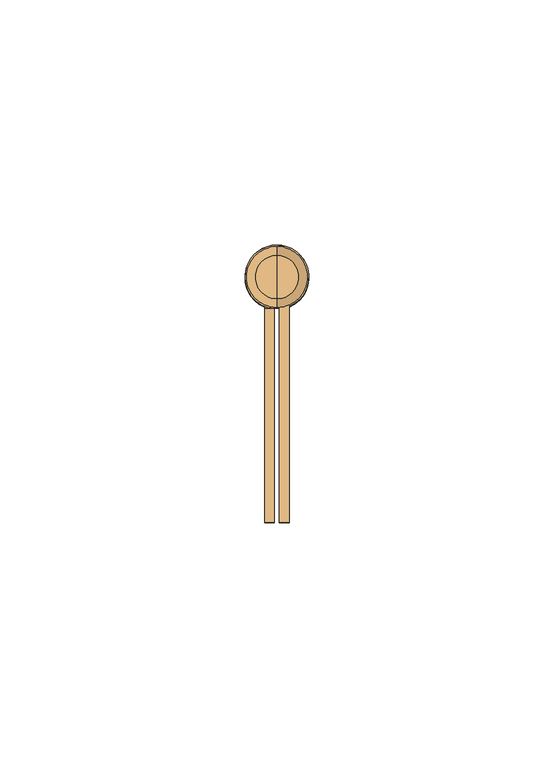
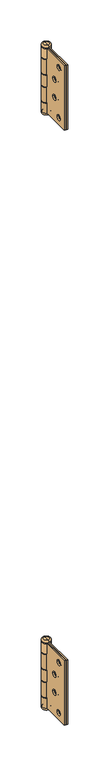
"""IFC4 building model written with IfcOpenShell, lengths in millimetres: door geometry, Puerta contraplacada Vaiven : Puerta contraplacada 0.85x2.10 m."""

from ifc_helpers import new_model, si_unit, point, frame, origin, place, context, project, spatial, polyline, circle_curve, ellipse_curve, trimmed, source, transform, mapped, element, save
from ifc_brep_helpers import plane_surface, cylinder_surface, revolved_surface, advanced_brep


def door_2d542328(model_context):
    return source(origin(), model_context, "Body", "AdvancedBrep", [
        advanced_brep(
        [(-389.0, 7.5, 2050.0), (-389.0, 7.5, 1950.0), (-389.0, 51.5, 1950.0), (-389.0, 51.5, 1965.5), (-389.0, 51.0, 1965.5), (-389.0, 51.0, 1991.0), (-389.0, 51.5, 1991.0), (-389.0, 51.5, 2009.0), (-389.0, 51.0, 2009.0), (-389.0, 51.0, 2034.5), (-389.0, 51.5, 2034.5), (-389.0, 51.5, 2050.0), (-389.0, 17.5, 1961.0), (-389.0, 25.5, 1961.0), (-389.0, 28.5, 1986.0), (-389.0, 36.5, 1986.0), (-389.0, 17.5, 2039.0), (-389.0, 25.5, 2039.0), (-389.0, 28.5, 2014.0), (-389.0, 36.5, 2014.0), (-391.0, 7.5, 1950.0), (-391.0, 7.5, 2050.0), (-391.0, 53.027864, 2050.0), (-391.0, 53.027864, 2034.5), (-391.0, 51.0, 2034.5), (-391.0, 51.0, 2009.0), (-391.0, 53.027864, 2009.0), (-391.0, 53.027864, 1991.0), (-391.0, 51.0, 1991.0), (-391.0, 51.0, 1965.5), (-391.0, 53.027864, 1965.5), (-391.0, 53.027864, 1950.0), (-391.0, 25.5, 1961.0), (-391.0, 17.5, 1961.0), (-391.0, 36.5, 1986.0), (-391.0, 28.5, 1986.0), (-391.0, 25.5, 2039.0), (-391.0, 17.5, 2039.0), (-391.0, 36.5, 2014.0), (-391.0, 28.5, 2014.0), (-392.0, 53.027864, 1950.0), (-392.0, 51.0192593, 1950.0), (-392.0, 51.0192593, 2050.0), (-392.0, 53.027864, 2050.0), (-392.0, 53.027864, 2034.5), (-392.0, 51.0192593, 2034.5), (-392.0, 51.0192593, 2009.0), (-392.0, 53.027864, 2009.0), (-392.0, 53.027864, 1991.0), (-392.0, 51.0192593, 1991.0), (-392.0, 51.0192593, 1965.5), (-392.0, 53.027864, 1965.5)],
        [
            (0, 1),
            (1, 2),
            (2, 3),
            (3, 4),
            (4, 5),
            (5, 6),
            (6, 7),
            (7, 8),
            (8, 9),
            (9, 10),
            (10, 11),
            (11, 0),
            (12, 13, circle_curve(frame((-389.0, 21.5, 1961.0), z_axis=(-1.0, 0.0, 0.0), x_axis=(0.0, -1.0, 0.0)), 4.0)),
            (13, 12, circle_curve(frame((-389.0, 21.5, 1961.0), z_axis=(-1.0, 0.0, 0.0), x_axis=(0.0, -1.0, 0.0)), 4.0)),
            (14, 15, circle_curve(frame((-389.0, 32.5, 1986.0), z_axis=(-1.0, 0.0, 0.0), x_axis=(0.0, -1.0, 0.0)), 4.0)),
            (15, 14, circle_curve(frame((-389.0, 32.5, 1986.0), z_axis=(-1.0, 0.0, 0.0), x_axis=(0.0, -1.0, 0.0)), 4.0)),
            (16, 17, circle_curve(frame((-389.0, 21.5, 2039.0), z_axis=(-1.0, 0.0, 0.0), x_axis=(0.0, -1.0, 0.0)), 4.0)),
            (17, 16, circle_curve(frame((-389.0, 21.5, 2039.0), z_axis=(-1.0, 0.0, 0.0), x_axis=(0.0, -1.0, 0.0)), 4.0)),
            (18, 19, circle_curve(frame((-389.0, 32.5, 2014.0), z_axis=(-1.0, 0.0, 0.0), x_axis=(0.0, -1.0, 0.0)), 4.0)),
            (19, 18, circle_curve(frame((-389.0, 32.5, 2014.0), z_axis=(-1.0, 0.0, 0.0), x_axis=(0.0, -1.0, 0.0)), 4.0)),
            (20, 21),
            (21, 22),
            (22, 23),
            (23, 24),
            (24, 25),
            (25, 26),
            (26, 27),
            (27, 28),
            (28, 29),
            (29, 30),
            (30, 31),
            (31, 20),
            (32, 33, circle_curve(frame((-391.0, 21.5, 1961.0), z_axis=(1.0, 0.0, 0.0), x_axis=(0.0, -1.0, 0.0)), 4.0)),
            (33, 32, circle_curve(frame((-391.0, 21.5, 1961.0), z_axis=(1.0, 0.0, 0.0), x_axis=(0.0, -1.0, 0.0)), 4.0)),
            (34, 35, circle_curve(frame((-391.0, 32.5, 1986.0), z_axis=(1.0, 0.0, 0.0), x_axis=(0.0, -1.0, 0.0)), 4.0)),
            (35, 34, circle_curve(frame((-391.0, 32.5, 1986.0), z_axis=(1.0, 0.0, 0.0), x_axis=(0.0, -1.0, 0.0)), 4.0)),
            (36, 37, circle_curve(frame((-391.0, 21.5, 2039.0), z_axis=(1.0, 0.0, 0.0), x_axis=(0.0, -1.0, 0.0)), 4.0)),
            (37, 36, circle_curve(frame((-391.0, 21.5, 2039.0), z_axis=(1.0, 0.0, 0.0), x_axis=(0.0, -1.0, 0.0)), 4.0)),
            (38, 39, circle_curve(frame((-391.0, 32.5, 2014.0), z_axis=(1.0, 0.0, 0.0), x_axis=(0.0, -1.0, 0.0)), 4.0)),
            (39, 38, circle_curve(frame((-391.0, 32.5, 2014.0), z_axis=(1.0, 0.0, 0.0), x_axis=(0.0, -1.0, 0.0)), 4.0)),
            (1, 20),
            (31, 40, circle_curve(frame((-391.5, 57.5, 1950.0), z_axis=(0.0, 0.0, 1.0), x_axis=(0.0, 1.0, 0.0)), 4.5)),
            (40, 41),
            (41, 2, circle_curve(frame((-391.5, 57.5, 1950.0), z_axis=(0.0, 0.0, -1.0), x_axis=(0.0, 1.0, 0.0)), 6.5)),
            (0, 21),
            (11, 42, circle_curve(frame((-391.5, 57.5, 2050.0), z_axis=(0.0, 0.0, 1.0), x_axis=(0.0, 1.0, 0.0)), 6.5)),
            (42, 43),
            (43, 22, circle_curve(frame((-391.5, 57.5, 2050.0), z_axis=(0.0, 0.0, -1.0), x_axis=(0.0, 1.0, 0.0)), 4.5)),
            (24, 9),
            (8, 25),
            (28, 5),
            (4, 29),
            (23, 44, circle_curve(frame((-391.5, 57.5, 2034.5), z_axis=(0.0, 0.0, 1.0), x_axis=(0.0, 1.0, 0.0)), 4.5)),
            (44, 45),
            (45, 10, circle_curve(frame((-391.5, 57.5, 2034.5), z_axis=(0.0, 0.0, -1.0), x_axis=(0.0, 1.0, 0.0)), 6.5)),
            (45, 42),
            (44, 43),
            (7, 46, circle_curve(frame((-391.5, 57.5, 2009.0), z_axis=(0.0, 0.0, 1.0), x_axis=(0.0, 1.0, 0.0)), 6.5)),
            (46, 47),
            (47, 26, circle_curve(frame((-391.5, 57.5, 2009.0), z_axis=(0.0, 0.0, -1.0), x_axis=(0.0, 1.0, 0.0)), 4.5)),
            (27, 48, circle_curve(frame((-391.5, 57.5, 1991.0), z_axis=(0.0, 0.0, 1.0), x_axis=(0.0, 1.0, 0.0)), 4.5)),
            (48, 49),
            (49, 6, circle_curve(frame((-391.5, 57.5, 1991.0), z_axis=(0.0, 0.0, -1.0), x_axis=(0.0, 1.0, 0.0)), 6.5)),
            (49, 46),
            (48, 47),
            (3, 50, circle_curve(frame((-391.5, 57.5, 1965.5), z_axis=(0.0, 0.0, 1.0), x_axis=(0.0, 1.0, 0.0)), 6.5)),
            (50, 51),
            (51, 30, circle_curve(frame((-391.5, 57.5, 1965.5), z_axis=(0.0, 0.0, -1.0), x_axis=(0.0, 1.0, 0.0)), 4.5)),
            (41, 50),
            (40, 51),
            (32, 13),
            (12, 33),
            (34, 15),
            (14, 35),
            (36, 17),
            (16, 37),
            (38, 19),
            (18, 39),
        ],
        [
            plane_surface(frame((-389.0, 51.0, 1950.0), z_axis=(1.0, 0.0, 0.0), x_axis=(0.0, 0.0, 1.0))),
            plane_surface(frame((-391.0, 51.0, 1950.0), z_axis=(-1.0, 0.0, 0.0), x_axis=(0.0, 0.0, -1.0))),
            plane_surface(frame((-389.0, 7.5, 1950.0), z_axis=(0.0, 0.0, -1.0), x_axis=(-1.0, 0.0, 0.0))),
            plane_surface(frame((-389.0, 7.5, 2050.0), z_axis=(0.0, -1.0, 0.0), x_axis=(-1.0, 0.0, 0.0))),
            plane_surface(frame((-389.0, 51.0, 2050.0), z_axis=(0.0, 0.0, 1.0), x_axis=(-1.0, 0.0, 0.0))),
            plane_surface(frame((-389.0, 51.0, 1950.0), z_axis=(0.0, 1.0, 0.0), x_axis=(-1.0, 0.0, 0.0))),
            plane_surface(frame((-391.0, 51.0, 2034.5), z_axis=(0.0, 0.0, -1.0), x_axis=(0.0, 1.0, 0.0))),
            cylinder_surface(frame((-391.5, 57.5, 2034.5), z_axis=(0.0, 0.0, 1.0), x_axis=(0.0, 1.0, 0.0)), 6.5),
            plane_surface(frame((-392.0, 51.0192593, 2050.0), z_axis=(1.0, 0.0, 0.0), x_axis=(0.0, 0.0, -1.0))),
            revolved_surface(polyline([(-391.5, 62.0, 2034.5), (-391.5, 62.0, 2050.0)]), (-391.5, 57.5, 2034.5), (0.0, 0.0, -1.0)),
            plane_surface(frame((-391.0, 51.0, 2009.0), z_axis=(0.0, 0.0, 1.0), x_axis=(0.0, -1.0, 0.0))),
            plane_surface(frame((-391.0, 51.0, 1991.0), z_axis=(0.0, 0.0, -1.0), x_axis=(0.0, 1.0, 0.0))),
            cylinder_surface(frame((-391.5, 57.5, 1991.0), z_axis=(0.0, 0.0, 1.0), x_axis=(0.0, 1.0, 0.0)), 6.5),
            plane_surface(frame((-392.0, 51.0192593, 2009.0), z_axis=(1.0, 0.0, 0.0), x_axis=(0.0, 0.0, -1.0))),
            revolved_surface(polyline([(-391.5, 62.0, 1991.0), (-391.5, 62.0, 2009.0)]), (-391.5, 57.5, 1991.0), (0.0, 0.0, -1.0)),
            plane_surface(frame((-391.0, 51.0, 1965.5), z_axis=(0.0, 0.0, 1.0), x_axis=(0.0, -1.0, 0.0))),
            cylinder_surface(frame((-391.5, 57.5, 1950.0), z_axis=(0.0, 0.0, 1.0), x_axis=(0.0, 1.0, 0.0)), 6.5),
            plane_surface(frame((-392.0, 51.0192593, 1965.5), z_axis=(1.0, 0.0, 0.0), x_axis=(0.0, 0.0, -1.0))),
            revolved_surface(polyline([(-391.5, 62.0, 1950.0), (-391.5, 62.0, 1965.5)]), (-391.5, 57.5, 1950.0), (0.0, 0.0, -1.0)),
            revolved_surface(polyline([(-389.0, 17.5, 1961.0), (-391.0, 17.5, 1961.0)]), (-394.0, 21.5, 1961.0), (1.0, 0.0, 0.0)),
            revolved_surface(polyline([(-389.0, 28.5, 1986.0), (-391.0, 28.5, 1986.0)]), (-392.0, 32.5, 1986.0), (1.0, 0.0, 0.0)),
            revolved_surface(polyline([(-389.0, 17.5, 2039.0), (-391.0, 17.5, 2039.0)]), (-392.0, 21.5, 2039.0), (1.0, 0.0, 0.0)),
            revolved_surface(polyline([(-389.0, 28.5, 2014.0), (-391.0, 28.5, 2014.0)]), (-392.0, 32.5, 2014.0), (1.0, 0.0, 0.0)),
        ],
        [
            (0, [[1, 2, 3, 4, 5, 6, 7, 8, 9, 10, 11, 12], [13, 14], [15, 16], [17, 18], [19, 20]]),
            (1, [[21, 22, 23, 24, 25, 26, 27, 28, 29, 30, 31, 32], [33, 34], [35, 36], [37, 38], [39, 40]]),
            (2, [[41, -32, 42, 43, 44, -2]]),
            (3, [[-1, 45, -21, -41]]),
            (4, [[-45, -12, 46, 47, 48, -22]]),
            (5, [[49, -9, 50, -25]]),
            (5, [[51, -5, 52, -29]]),
            (6, [[53, 54, 55, -10, -49, -24]]),
            (7, [[-46, -11, -55, 56]]),
            (8, [[-47, -56, -54, 57]]),
            (9, [[-48, -57, -53, -23]]),
            (10, [[58, 59, 60, -26, -50, -8]]),
            (11, [[61, 62, 63, -6, -51, -28]]),
            (12, [[-58, -7, -63, 64]]),
            (13, [[-59, -64, -62, 65]]),
            (14, [[-60, -65, -61, -27]]),
            (15, [[66, 67, 68, -30, -52, -4]]),
            (16, [[-66, -3, -44, 69]]),
            (17, [[-67, -69, -43, 70]]),
            (18, [[-68, -70, -42, -31]]),
            (19, [[71, -13, 72, -33]]),
            (19, [[-71, -34, -72, -14]]),
            (20, [[73, -15, 74, -35]]),
            (20, [[-73, -36, -74, -16]]),
            (21, [[75, -17, 76, -37]]),
            (21, [[-75, -38, -76, -18]]),
            (22, [[77, -19, 78, -39]]),
            (22, [[-77, -40, -78, -20]]),
        ],
    ),
        advanced_brep(
        [(-391.5, 53.0, 2054.0), (-391.5, 61.9442719, 2054.0), (-391.5, 61.9442719, 2050.5), (-391.5, 53.0, 2050.5), (-391.5, 57.472136, 2054.0), (-391.5, 53.0, 1946.0), (-391.5, 61.9442719, 1946.0), (-391.5, 57.472136, 1946.0), (-391.5, 53.0, 1949.5), (-391.5, 61.9442719, 1949.5)],
        [
            (0, 1, circle_curve(frame((-391.5, 57.472136, 2054.0), z_axis=(0.0, 0.0, -1.0), x_axis=(0.0, 1.0, 0.0)), 4.472136)),
            (1, 2, circle_curve(frame((-391.5, 61.9442719, 2052.25), z_axis=(-1.0, 0.0, 0.0), x_axis=(0.0, -1.0, 0.0)), 1.75)),
            (2, 3, circle_curve(frame((-391.5, 57.472136, 2050.5), z_axis=(0.0, 0.0, 1.0), x_axis=(0.0, 1.0, 0.0)), 4.472136)),
            (3, 0, circle_curve(frame((-391.5, 53.0, 2052.25), z_axis=(-1.0, 0.0, 0.0), x_axis=(0.0, 1.0, 0.0)), 1.75)),
            (1, 0, circle_curve(frame((-391.5, 57.472136, 2054.0), z_axis=(0.0, 0.0, -1.0), x_axis=(0.0, 1.0, 0.0)), 4.472136)),
            (3, 2, circle_curve(frame((-391.5, 57.472136, 2050.5), z_axis=(0.0, 0.0, 1.0), x_axis=(0.0, 1.0, 0.0)), 4.472136)),
            (4, 1),
            (0, 4),
            (5, 6, circle_curve(frame((-391.5, 57.472136, 1946.0), z_axis=(0.0, 0.0, -1.0), x_axis=(0.0, 1.0, 0.0)), 4.472136)),
            (6, 7),
            (7, 5),
            (6, 5, circle_curve(frame((-391.5, 57.472136, 1946.0), z_axis=(0.0, 0.0, -1.0), x_axis=(0.0, 1.0, 0.0)), 4.472136)),
            (8, 9, circle_curve(frame((-391.5, 57.472136, 1949.5), z_axis=(0.0, 0.0, -1.0), x_axis=(0.0, 1.0, 0.0)), 4.472136)),
            (9, 6, circle_curve(frame((-391.5, 61.9442719, 1947.75), z_axis=(-1.0, 0.0, 0.0), x_axis=(0.0, -1.0, 0.0)), 1.75)),
            (5, 8, circle_curve(frame((-391.5, 53.0, 1947.75), z_axis=(-1.0, 0.0, 0.0), x_axis=(0.0, 1.0, 0.0)), 1.75)),
            (9, 8, circle_curve(frame((-391.5, 57.472136, 1949.5), z_axis=(0.0, 0.0, -1.0), x_axis=(0.0, 1.0, 0.0)), 4.472136)),
            (2, 9),
            (8, 3),
        ],
        [
            revolved_surface(trimmed(ellipse_curve(frame((-391.5, 61.9442719, 2052.25), z_axis=(1.0, 0.0, 0.0), x_axis=(0.0, -1.0, 0.0)), 1.75, 1.75), [point((-391.5, 61.9442719, 2050.5))], [point((-391.5, 61.9442719, 2054.0))], True, "CARTESIAN"), (-391.5, 57.472136, 2054.0), (0.0, 0.0, 1.0)),
            plane_surface(frame((-391.5, 57.472136, 2054.0), z_axis=(0.0, 0.0, 1.0), x_axis=(0.0, 1.0, 0.0))),
            plane_surface(frame((-391.5, 57.472136, 1946.0), z_axis=(0.0, 0.0, -1.0), x_axis=(0.0, 1.0, 0.0))),
            revolved_surface(trimmed(ellipse_curve(frame((-391.5, 61.9442719, 1947.75), z_axis=(1.0, 0.0, 0.0), x_axis=(0.0, -1.0, 0.0)), 1.75, 1.75), [point((-391.5, 61.9442719, 1946.0))], [point((-391.5, 61.9442719, 1949.5))], True, "CARTESIAN"), (-391.5, 57.472136, 2054.0), (0.0, 0.0, 1.0)),
            cylinder_surface(frame((-391.5, 57.472136, 2054.0), z_axis=(0.0, 0.0, 1.0), x_axis=(0.0, 1.0, 0.0)), 4.472136),
        ],
        [
            (0, [[1, 2, 3, 4]]),
            (0, [[5, -4, 6, -2]]),
            (1, [[7, -1, 8]]),
            (1, [[-8, -5, -7]]),
            (2, [[9, 10, 11]]),
            (2, [[12, -11, -10]]),
            (3, [[13, 14, -9, 15]]),
            (3, [[16, -15, -12, -14]]),
            (4, [[-3, 17, -13, 18]]),
            (4, [[-6, -18, -16, -17]]),
        ],
    ),
        advanced_brep(
        [(-392.0, 51.0, 2050.0), (-392.0, 7.5, 2050.0), (-392.0, 7.5, 1950.0), (-392.0, 51.0, 1950.0), (-392.0, 51.0, 1966.5), (-392.0, 53.027864, 1966.5), (-392.0, 53.027864, 1990.0), (-392.0, 51.0, 1990.0), (-392.0, 51.0, 2010.0), (-392.0, 53.027864, 2010.0), (-392.0, 53.027864, 2033.5), (-392.0, 51.0, 2033.5), (-392.0, 17.5, 1961.0), (-392.0, 25.5, 1961.0), (-392.0, 28.5, 1986.0), (-392.0, 36.5, 1986.0), (-392.0, 17.5, 2039.0), (-392.0, 25.5, 2039.0), (-392.0, 28.5, 2014.0), (-392.0, 36.5, 2014.0), (-394.0, 51.0, 1950.0), (-394.0, 7.5, 1950.0), (-394.0, 7.5, 2050.0), (-394.0, 51.0, 2050.0), (-394.0, 51.0, 2033.5), (-394.0, 51.5, 2033.5), (-394.0, 51.5, 2010.0), (-394.0, 51.0, 2010.0), (-394.0, 51.0, 1990.0), (-394.0, 51.5, 1990.0), (-394.0, 51.5, 1966.5), (-394.0, 51.0, 1966.5), (-394.0, 25.5, 1961.0), (-394.0, 17.5, 1961.0), (-394.0, 36.5, 1986.0), (-394.0, 28.5, 1986.0), (-394.0, 25.5, 2039.0), (-394.0, 17.5, 2039.0), (-394.0, 36.5, 2014.0), (-394.0, 28.5, 2014.0), (-391.0, 53.027864, 2033.5), (-391.0, 51.0192593, 2033.5), (-391.0, 51.0192593, 2010.0), (-391.0, 53.027864, 2010.0), (-391.0, 53.027864, 1990.0), (-391.0, 51.0192593, 1990.0), (-391.0, 51.0192593, 1966.5), (-391.0, 53.027864, 1966.5)],
        [
            (0, 1),
            (1, 2),
            (2, 3),
            (3, 4),
            (4, 5),
            (5, 6),
            (6, 7),
            (7, 8),
            (8, 9),
            (9, 10),
            (10, 11),
            (11, 0),
            (12, 13, circle_curve(frame((-392.0, 21.5, 1961.0), z_axis=(-1.0, 0.0, 0.0), x_axis=(0.0, -1.0, 0.0)), 4.0)),
            (13, 12, circle_curve(frame((-392.0, 21.5, 1961.0), z_axis=(-1.0, 0.0, 0.0), x_axis=(0.0, -1.0, 0.0)), 4.0)),
            (14, 15, circle_curve(frame((-392.0, 32.5, 1986.0), z_axis=(-1.0, 0.0, 0.0), x_axis=(0.0, -1.0, 0.0)), 4.0)),
            (15, 14, circle_curve(frame((-392.0, 32.5, 1986.0), z_axis=(-1.0, 0.0, 0.0), x_axis=(0.0, -1.0, 0.0)), 4.0)),
            (16, 17, circle_curve(frame((-392.0, 21.5, 2039.0), z_axis=(-1.0, 0.0, 0.0), x_axis=(0.0, -1.0, 0.0)), 4.0)),
            (17, 16, circle_curve(frame((-392.0, 21.5, 2039.0), z_axis=(-1.0, 0.0, 0.0), x_axis=(0.0, -1.0, 0.0)), 4.0)),
            (18, 19, circle_curve(frame((-392.0, 32.5, 2014.0), z_axis=(-1.0, 0.0, 0.0), x_axis=(0.0, -1.0, 0.0)), 4.0)),
            (19, 18, circle_curve(frame((-392.0, 32.5, 2014.0), z_axis=(-1.0, 0.0, 0.0), x_axis=(0.0, -1.0, 0.0)), 4.0)),
            (20, 21),
            (21, 22),
            (22, 23),
            (23, 24),
            (24, 25),
            (25, 26),
            (26, 27),
            (27, 28),
            (28, 29),
            (29, 30),
            (30, 31),
            (31, 20),
            (32, 33, circle_curve(frame((-394.0, 21.5, 1961.0), z_axis=(1.0, 0.0, 0.0), x_axis=(0.0, -1.0, 0.0)), 4.0)),
            (33, 32, circle_curve(frame((-394.0, 21.5, 1961.0), z_axis=(1.0, 0.0, 0.0), x_axis=(0.0, -1.0, 0.0)), 4.0)),
            (34, 35, circle_curve(frame((-394.0, 32.5, 1986.0), z_axis=(1.0, 0.0, 0.0), x_axis=(0.0, -1.0, 0.0)), 4.0)),
            (35, 34, circle_curve(frame((-394.0, 32.5, 1986.0), z_axis=(1.0, 0.0, 0.0), x_axis=(0.0, -1.0, 0.0)), 4.0)),
            (36, 37, circle_curve(frame((-394.0, 21.5, 2039.0), z_axis=(1.0, 0.0, 0.0), x_axis=(0.0, -1.0, 0.0)), 4.0)),
            (37, 36, circle_curve(frame((-394.0, 21.5, 2039.0), z_axis=(1.0, 0.0, 0.0), x_axis=(0.0, -1.0, 0.0)), 4.0)),
            (38, 39, circle_curve(frame((-394.0, 32.5, 2014.0), z_axis=(1.0, 0.0, 0.0), x_axis=(0.0, -1.0, 0.0)), 4.0)),
            (39, 38, circle_curve(frame((-394.0, 32.5, 2014.0), z_axis=(1.0, 0.0, 0.0), x_axis=(0.0, -1.0, 0.0)), 4.0)),
            (2, 21),
            (20, 3),
            (1, 22),
            (0, 23),
            (11, 24),
            (31, 4),
            (27, 8),
            (7, 28),
            (10, 40, circle_curve(frame((-391.5, 57.5, 2033.5), z_axis=(0.0, 0.0, -1.0), x_axis=(0.0, 1.0, 0.0)), 4.5)),
            (40, 41),
            (41, 25, circle_curve(frame((-391.5, 57.5, 2033.5), z_axis=(0.0, 0.0, 1.0), x_axis=(0.0, 1.0, 0.0)), 6.5)),
            (26, 42, circle_curve(frame((-391.5, 57.5, 2010.0), z_axis=(0.0, 0.0, -1.0), x_axis=(0.0, 1.0, 0.0)), 6.5)),
            (42, 43),
            (43, 9, circle_curve(frame((-391.5, 57.5, 2010.0), z_axis=(0.0, 0.0, 1.0), x_axis=(0.0, 1.0, 0.0)), 4.5)),
            (41, 42),
            (40, 43),
            (6, 44, circle_curve(frame((-391.5, 57.5, 1990.0), z_axis=(0.0, 0.0, -1.0), x_axis=(0.0, 1.0, 0.0)), 4.5)),
            (44, 45),
            (45, 29, circle_curve(frame((-391.5, 57.5, 1990.0), z_axis=(0.0, 0.0, 1.0), x_axis=(0.0, 1.0, 0.0)), 6.5)),
            (30, 46, circle_curve(frame((-391.5, 57.5, 1966.5), z_axis=(0.0, 0.0, -1.0), x_axis=(0.0, 1.0, 0.0)), 6.5)),
            (46, 47),
            (47, 5, circle_curve(frame((-391.5, 57.5, 1966.5), z_axis=(0.0, 0.0, 1.0), x_axis=(0.0, 1.0, 0.0)), 4.5)),
            (45, 46),
            (44, 47),
            (32, 13),
            (12, 33),
            (34, 15),
            (14, 35),
            (36, 17),
            (16, 37),
            (38, 19),
            (18, 39),
        ],
        [
            plane_surface(frame((-392.0, 51.0, 1950.0), z_axis=(1.0, 0.0, 0.0), x_axis=(0.0, 0.0, 1.0))),
            plane_surface(frame((-394.0, 51.0, 1950.0), z_axis=(-1.0, 0.0, 0.0), x_axis=(0.0, 0.0, -1.0))),
            plane_surface(frame((-392.0, 7.5, 1950.0), z_axis=(0.0, 0.0, -1.0), x_axis=(-1.0, 0.0, 0.0))),
            plane_surface(frame((-392.0, 7.5, 2050.0), z_axis=(0.0, -1.0, 0.0), x_axis=(-1.0, 0.0, 0.0))),
            plane_surface(frame((-392.0, 51.0, 2050.0), z_axis=(0.0, 0.0, 1.0), x_axis=(-1.0, 0.0, 0.0))),
            plane_surface(frame((-392.0, 51.0, 1950.0), z_axis=(0.0, 1.0, 0.0), x_axis=(-1.0, 0.0, 0.0))),
            plane_surface(frame((-391.5, 62.0, 2033.5), z_axis=(0.0, 0.0, 1.0), x_axis=(1.0, 0.0, 0.0))),
            plane_surface(frame((-391.5, 62.0, 2010.0), z_axis=(0.0, 0.0, -1.0), x_axis=(-1.0, 0.0, 0.0))),
            cylinder_surface(frame((-391.5, 57.5, 2010.0), z_axis=(0.0, 0.0, 1.0), x_axis=(0.0, 1.0, 0.0)), 6.5),
            plane_surface(frame((-391.0, 53.027864, 2033.5), z_axis=(-1.0, 0.0, 0.0), x_axis=(0.0, 0.0, -1.0))),
            revolved_surface(polyline([(-391.5, 62.0, 2010.0), (-391.5, 62.0, 2033.5)]), (-391.5, 57.5, 2010.0), (0.0, 0.0, -1.0)),
            plane_surface(frame((-391.5, 62.0, 1990.0), z_axis=(0.0, 0.0, 1.0), x_axis=(1.0, 0.0, 0.0))),
            plane_surface(frame((-391.5, 62.0, 1966.5), z_axis=(0.0, 0.0, -1.0), x_axis=(-1.0, 0.0, 0.0))),
            cylinder_surface(frame((-391.5, 57.5, 1966.5), z_axis=(0.0, 0.0, 1.0), x_axis=(0.0, 1.0, 0.0)), 6.5),
            plane_surface(frame((-391.0, 53.027864, 1990.0), z_axis=(-1.0, 0.0, 0.0), x_axis=(0.0, 0.0, -1.0))),
            revolved_surface(polyline([(-391.5, 62.0, 1966.5), (-391.5, 62.0, 1990.0)]), (-391.5, 57.5, 1966.5), (0.0, 0.0, -1.0)),
            revolved_surface(polyline([(-392.0, 17.5, 1961.0), (-394.0, 17.5, 1961.0)]), (-394.0, 21.5, 1961.0), (1.0, 0.0, 0.0)),
            revolved_surface(polyline([(-392.0, 28.5, 1986.0), (-394.0, 28.5, 1986.0)]), (-392.0, 32.5, 1986.0), (1.0, 0.0, 0.0)),
            revolved_surface(polyline([(-392.0, 17.5, 2039.0), (-394.0, 17.5, 2039.0)]), (-392.0, 21.5, 2039.0), (1.0, 0.0, 0.0)),
            revolved_surface(polyline([(-392.0, 28.5, 2014.0), (-394.0, 28.5, 2014.0)]), (-392.0, 32.5, 2014.0), (1.0, 0.0, 0.0)),
        ],
        [
            (0, [[1, 2, 3, 4, 5, 6, 7, 8, 9, 10, 11, 12], [13, 14], [15, 16], [17, 18], [19, 20]]),
            (1, [[21, 22, 23, 24, 25, 26, 27, 28, 29, 30, 31, 32], [33, 34], [35, 36], [37, 38], [39, 40]]),
            (2, [[-3, 41, -21, 42]]),
            (3, [[-2, 43, -22, -41]]),
            (4, [[-1, 44, -23, -43]]),
            (5, [[-44, -12, 45, -24]]),
            (5, [[-42, -32, 46, -4]]),
            (5, [[47, -8, 48, -28]]),
            (6, [[49, 50, 51, -25, -45, -11]]),
            (7, [[52, 53, 54, -9, -47, -27]]),
            (8, [[-51, 55, -52, -26]]),
            (9, [[-50, 56, -53, -55]]),
            (10, [[-49, -10, -54, -56]]),
            (11, [[57, 58, 59, -29, -48, -7]]),
            (12, [[60, 61, 62, -5, -46, -31]]),
            (13, [[-59, 63, -60, -30]]),
            (14, [[-58, 64, -61, -63]]),
            (15, [[-57, -6, -62, -64]]),
            (16, [[65, -13, 66, -33]]),
            (16, [[-65, -34, -66, -14]]),
            (17, [[67, -15, 68, -35]]),
            (17, [[-67, -36, -68, -16]]),
            (18, [[69, -17, 70, -37]]),
            (18, [[-69, -38, -70, -18]]),
            (19, [[71, -19, 72, -39]]),
            (19, [[-71, -40, -72, -20]]),
        ],
    ),
        advanced_brep(
        [(-389.0, 7.5, 1125.0174632), (-389.0, 7.5, 1025.0174632), (-389.0, 51.5, 1025.0174632), (-389.0, 51.5, 1040.5174632), (-389.0, 51.0, 1040.5174632), (-389.0, 51.0, 1066.0174632), (-389.0, 51.5, 1066.0174632), (-389.0, 51.5, 1084.0174632), (-389.0, 51.0, 1084.0174632), (-389.0, 51.0, 1109.5174632), (-389.0, 51.5, 1109.5174632), (-389.0, 51.5, 1125.0174632), (-389.0, 17.5, 1036.0174632), (-389.0, 25.5, 1036.0174632), (-389.0, 28.5, 1061.0174632), (-389.0, 36.5, 1061.0174632), (-389.0, 17.5, 1114.0174632), (-389.0, 25.5, 1114.0174632), (-389.0, 28.5, 1089.0174632), (-389.0, 36.5, 1089.0174632), (-391.0, 7.5, 1025.0174632), (-391.0, 7.5, 1125.0174632), (-391.0, 53.027864, 1125.0174632), (-391.0, 53.027864, 1109.5174632), (-391.0, 51.0, 1109.5174632), (-391.0, 51.0, 1084.0174632), (-391.0, 53.027864, 1084.0174632), (-391.0, 53.027864, 1066.0174632), (-391.0, 51.0, 1066.0174632), (-391.0, 51.0, 1040.5174632), (-391.0, 53.027864, 1040.5174632), (-391.0, 53.027864, 1025.0174632), (-391.0, 25.5, 1036.0174632), (-391.0, 17.5, 1036.0174632), (-391.0, 36.5, 1061.0174632), (-391.0, 28.5, 1061.0174632), (-391.0, 25.5, 1114.0174632), (-391.0, 17.5, 1114.0174632), (-391.0, 36.5, 1089.0174632), (-391.0, 28.5, 1089.0174632), (-392.0, 53.027864, 1025.0174632), (-392.0, 51.0192593, 1025.0174632), (-392.0, 51.0192593, 1125.0174632), (-392.0, 53.027864, 1125.0174632), (-392.0, 53.027864, 1109.5174632), (-392.0, 51.0192593, 1109.5174632), (-392.0, 51.0192593, 1084.0174632), (-392.0, 53.027864, 1084.0174632), (-392.0, 53.027864, 1066.0174632), (-392.0, 51.0192593, 1066.0174632), (-392.0, 51.0192593, 1040.5174632), (-392.0, 53.027864, 1040.5174632)],
        [
            (0, 1),
            (1, 2),
            (2, 3),
            (3, 4),
            (4, 5),
            (5, 6),
            (6, 7),
            (7, 8),
            (8, 9),
            (9, 10),
            (10, 11),
            (11, 0),
            (12, 13, circle_curve(frame((-389.0, 21.5, 1036.0174632), z_axis=(-1.0, 0.0, 0.0), x_axis=(0.0, -1.0, 0.0)), 4.0)),
            (13, 12, circle_curve(frame((-389.0, 21.5, 1036.0174632), z_axis=(-1.0, 0.0, 0.0), x_axis=(0.0, -1.0, 0.0)), 4.0)),
            (14, 15, circle_curve(frame((-389.0, 32.5, 1061.0174632), z_axis=(-1.0, 0.0, 0.0), x_axis=(0.0, -1.0, 0.0)), 4.0)),
            (15, 14, circle_curve(frame((-389.0, 32.5, 1061.0174632), z_axis=(-1.0, 0.0, 0.0), x_axis=(0.0, -1.0, 0.0)), 4.0)),
            (16, 17, circle_curve(frame((-389.0, 21.5, 1114.0174632), z_axis=(-1.0, 0.0, 0.0), x_axis=(0.0, -1.0, 0.0)), 4.0)),
            (17, 16, circle_curve(frame((-389.0, 21.5, 1114.0174632), z_axis=(-1.0, 0.0, 0.0), x_axis=(0.0, -1.0, 0.0)), 4.0)),
            (18, 19, circle_curve(frame((-389.0, 32.5, 1089.0174632), z_axis=(-1.0, 0.0, 0.0), x_axis=(0.0, -1.0, 0.0)), 4.0)),
            (19, 18, circle_curve(frame((-389.0, 32.5, 1089.0174632), z_axis=(-1.0, 0.0, 0.0), x_axis=(0.0, -1.0, 0.0)), 4.0)),
            (20, 21),
            (21, 22),
            (22, 23),
            (23, 24),
            (24, 25),
            (25, 26),
            (26, 27),
            (27, 28),
            (28, 29),
            (29, 30),
            (30, 31),
            (31, 20),
            (32, 33, circle_curve(frame((-391.0, 21.5, 1036.0174632), z_axis=(1.0, 0.0, 0.0), x_axis=(0.0, -1.0, 0.0)), 4.0)),
            (33, 32, circle_curve(frame((-391.0, 21.5, 1036.0174632), z_axis=(1.0, 0.0, 0.0), x_axis=(0.0, -1.0, 0.0)), 4.0)),
            (34, 35, circle_curve(frame((-391.0, 32.5, 1061.0174632), z_axis=(1.0, 0.0, 0.0), x_axis=(0.0, -1.0, 0.0)), 4.0)),
            (35, 34, circle_curve(frame((-391.0, 32.5, 1061.0174632), z_axis=(1.0, 0.0, 0.0), x_axis=(0.0, -1.0, 0.0)), 4.0)),
            (36, 37, circle_curve(frame((-391.0, 21.5, 1114.0174632), z_axis=(1.0, 0.0, 0.0), x_axis=(0.0, -1.0, 0.0)), 4.0)),
            (37, 36, circle_curve(frame((-391.0, 21.5, 1114.0174632), z_axis=(1.0, 0.0, 0.0), x_axis=(0.0, -1.0, 0.0)), 4.0)),
            (38, 39, circle_curve(frame((-391.0, 32.5, 1089.0174632), z_axis=(1.0, 0.0, 0.0), x_axis=(0.0, -1.0, 0.0)), 4.0)),
            (39, 38, circle_curve(frame((-391.0, 32.5, 1089.0174632), z_axis=(1.0, 0.0, 0.0), x_axis=(0.0, -1.0, 0.0)), 4.0)),
            (1, 20),
            (31, 40, circle_curve(frame((-391.5, 57.5, 1025.0174632), z_axis=(0.0, 0.0, 1.0), x_axis=(0.0, 1.0, 0.0)), 4.5)),
            (40, 41),
            (41, 2, circle_curve(frame((-391.5, 57.5, 1025.0174632), z_axis=(0.0, 0.0, -1.0), x_axis=(0.0, 1.0, 0.0)), 6.5)),
            (0, 21),
            (11, 42, circle_curve(frame((-391.5, 57.5, 1125.0174632), z_axis=(0.0, 0.0, 1.0), x_axis=(0.0, 1.0, 0.0)), 6.5)),
            (42, 43),
            (43, 22, circle_curve(frame((-391.5, 57.5, 1125.0174632), z_axis=(0.0, 0.0, -1.0), x_axis=(0.0, 1.0, 0.0)), 4.5)),
            (24, 9),
            (8, 25),
            (28, 5),
            (4, 29),
            (23, 44, circle_curve(frame((-391.5, 57.5, 1109.5174632), z_axis=(0.0, 0.0, 1.0), x_axis=(0.0, 1.0, 0.0)), 4.5)),
            (44, 45),
            (45, 10, circle_curve(frame((-391.5, 57.5, 1109.5174632), z_axis=(0.0, 0.0, -1.0), x_axis=(0.0, 1.0, 0.0)), 6.5)),
            (45, 42),
            (44, 43),
            (7, 46, circle_curve(frame((-391.5, 57.5, 1084.0174632), z_axis=(0.0, 0.0, 1.0), x_axis=(0.0, 1.0, 0.0)), 6.5)),
            (46, 47),
            (47, 26, circle_curve(frame((-391.5, 57.5, 1084.0174632), z_axis=(0.0, 0.0, -1.0), x_axis=(0.0, 1.0, 0.0)), 4.5)),
            (27, 48, circle_curve(frame((-391.5, 57.5, 1066.0174632), z_axis=(0.0, 0.0, 1.0), x_axis=(0.0, 1.0, 0.0)), 4.5)),
            (48, 49),
            (49, 6, circle_curve(frame((-391.5, 57.5, 1066.0174632), z_axis=(0.0, 0.0, -1.0), x_axis=(0.0, 1.0, 0.0)), 6.5)),
            (49, 46),
            (48, 47),
            (3, 50, circle_curve(frame((-391.5, 57.5, 1040.5174632), z_axis=(0.0, 0.0, 1.0), x_axis=(0.0, 1.0, 0.0)), 6.5)),
            (50, 51),
            (51, 30, circle_curve(frame((-391.5, 57.5, 1040.5174632), z_axis=(0.0, 0.0, -1.0), x_axis=(0.0, 1.0, 0.0)), 4.5)),
            (41, 50),
            (40, 51),
            (32, 13),
            (12, 33),
            (34, 15),
            (14, 35),
            (36, 17),
            (16, 37),
            (38, 19),
            (18, 39),
        ],
        [
            plane_surface(frame((-389.0, 51.0, 1025.0174632), z_axis=(1.0, 0.0, 0.0), x_axis=(0.0, 0.0, 1.0))),
            plane_surface(frame((-391.0, 51.0, 1025.0174632), z_axis=(-1.0, 0.0, 0.0), x_axis=(0.0, 0.0, -1.0))),
            plane_surface(frame((-389.0, 7.5, 1025.0174632), z_axis=(0.0, 0.0, -1.0), x_axis=(-1.0, 0.0, 0.0))),
            plane_surface(frame((-389.0, 7.5, 1125.0174632), z_axis=(0.0, -1.0, 0.0), x_axis=(-1.0, 0.0, 0.0))),
            plane_surface(frame((-389.0, 51.0, 1125.0174632), z_axis=(0.0, 0.0, 1.0), x_axis=(-1.0, 0.0, 0.0))),
            plane_surface(frame((-389.0, 51.0, 1025.0174632), z_axis=(0.0, 1.0, 0.0), x_axis=(-1.0, 0.0, 0.0))),
            plane_surface(frame((-391.0, 51.0, 1109.5174632), z_axis=(0.0, 0.0, -1.0), x_axis=(0.0, 1.0, 0.0))),
            cylinder_surface(frame((-391.5, 57.5, 1109.5174632), z_axis=(0.0, 0.0, 1.0), x_axis=(0.0, 1.0, 0.0)), 6.5),
            plane_surface(frame((-392.0, 51.0192593, 1125.0174632), z_axis=(1.0, 0.0, 0.0), x_axis=(0.0, 0.0, -1.0))),
            revolved_surface(polyline([(-391.5, 62.0, 1109.5174632), (-391.5, 62.0, 1125.0174632)]), (-391.5, 57.5, 1109.5174632), (0.0, 0.0, -1.0)),
            plane_surface(frame((-391.0, 51.0, 1084.0174632), z_axis=(0.0, 0.0, 1.0), x_axis=(0.0, -1.0, 0.0))),
            plane_surface(frame((-391.0, 51.0, 1066.0174632), z_axis=(0.0, 0.0, -1.0), x_axis=(0.0, 1.0, 0.0))),
            cylinder_surface(frame((-391.5, 57.5, 1066.0174632), z_axis=(0.0, 0.0, 1.0), x_axis=(0.0, 1.0, 0.0)), 6.5),
            plane_surface(frame((-392.0, 51.0192593, 1084.0174632), z_axis=(1.0, 0.0, 0.0), x_axis=(0.0, 0.0, -1.0))),
            revolved_surface(polyline([(-391.5, 62.0, 1066.0174632), (-391.5, 62.0, 1084.0174632)]), (-391.5, 57.5, 1066.0174632), (0.0, 0.0, -1.0)),
            plane_surface(frame((-391.0, 51.0, 1040.5174632), z_axis=(0.0, 0.0, 1.0), x_axis=(0.0, -1.0, 0.0))),
            cylinder_surface(frame((-391.5, 57.5, 1025.0174632), z_axis=(0.0, 0.0, 1.0), x_axis=(0.0, 1.0, 0.0)), 6.5),
            plane_surface(frame((-392.0, 51.0192593, 1040.5174632), z_axis=(1.0, 0.0, 0.0), x_axis=(0.0, 0.0, -1.0))),
            revolved_surface(polyline([(-391.5, 62.0, 1025.0174632), (-391.5, 62.0, 1040.5174632)]), (-391.5, 57.5, 1025.0174632), (0.0, 0.0, -1.0)),
            revolved_surface(polyline([(-389.0, 17.5, 1036.0174632), (-391.0, 17.5, 1036.0174632)]), (-394.0, 21.5, 1036.0174632), (1.0, 0.0, 0.0)),
            revolved_surface(polyline([(-389.0, 28.5, 1061.0174632), (-391.0, 28.5, 1061.0174632)]), (-392.0, 32.5, 1061.0174632), (1.0, 0.0, 0.0)),
            revolved_surface(polyline([(-389.0, 17.5, 1114.0174632), (-391.0, 17.5, 1114.0174632)]), (-392.0, 21.5, 1114.0174632), (1.0, 0.0, 0.0)),
            revolved_surface(polyline([(-389.0, 28.5, 1089.0174632), (-391.0, 28.5, 1089.0174632)]), (-392.0, 32.5, 1089.0174632), (1.0, 0.0, 0.0)),
        ],
        [
            (0, [[1, 2, 3, 4, 5, 6, 7, 8, 9, 10, 11, 12], [13, 14], [15, 16], [17, 18], [19, 20]]),
            (1, [[21, 22, 23, 24, 25, 26, 27, 28, 29, 30, 31, 32], [33, 34], [35, 36], [37, 38], [39, 40]]),
            (2, [[41, -32, 42, 43, 44, -2]]),
            (3, [[-1, 45, -21, -41]]),
            (4, [[-45, -12, 46, 47, 48, -22]]),
            (5, [[49, -9, 50, -25]]),
            (5, [[51, -5, 52, -29]]),
            (6, [[53, 54, 55, -10, -49, -24]]),
            (7, [[-46, -11, -55, 56]]),
            (8, [[-47, -56, -54, 57]]),
            (9, [[-48, -57, -53, -23]]),
            (10, [[58, 59, 60, -26, -50, -8]]),
            (11, [[61, 62, 63, -6, -51, -28]]),
            (12, [[-58, -7, -63, 64]]),
            (13, [[-59, -64, -62, 65]]),
            (14, [[-60, -65, -61, -27]]),
            (15, [[66, 67, 68, -30, -52, -4]]),
            (16, [[-66, -3, -44, 69]]),
            (17, [[-67, -69, -43, 70]]),
            (18, [[-68, -70, -42, -31]]),
            (19, [[71, -13, 72, -33]]),
            (19, [[-71, -34, -72, -14]]),
            (20, [[73, -15, 74, -35]]),
            (20, [[-73, -36, -74, -16]]),
            (21, [[75, -17, 76, -37]]),
            (21, [[-75, -38, -76, -18]]),
            (22, [[77, -19, 78, -39]]),
            (22, [[-77, -40, -78, -20]]),
        ],
    ),
        advanced_brep(
        [(-391.5, 53.0, 1129.0174632), (-391.5, 61.9442719, 1129.0174632), (-391.5, 61.9442719, 1125.5174632), (-391.5, 53.0, 1125.5174632), (-391.5, 57.472136, 1129.0174632), (-391.5, 53.0, 1021.0174632), (-391.5, 61.9442719, 1021.0174632), (-391.5, 57.472136, 1021.0174632), (-391.5, 53.0, 1024.5174632), (-391.5, 61.9442719, 1024.5174632)],
        [
            (0, 1, circle_curve(frame((-391.5, 57.472136, 1129.0174632), z_axis=(0.0, 0.0, -1.0), x_axis=(0.0, 1.0, 0.0)), 4.472136)),
            (1, 2, circle_curve(frame((-391.5, 61.9442719, 1127.2674632), z_axis=(-1.0, 0.0, 0.0), x_axis=(0.0, -1.0, 0.0)), 1.75)),
            (2, 3, circle_curve(frame((-391.5, 57.472136, 1125.5174632), z_axis=(0.0, 0.0, 1.0), x_axis=(0.0, 1.0, 0.0)), 4.472136)),
            (3, 0, circle_curve(frame((-391.5, 53.0, 1127.2674632), z_axis=(-1.0, 0.0, 0.0), x_axis=(0.0, 1.0, 0.0)), 1.75)),
            (1, 0, circle_curve(frame((-391.5, 57.472136, 1129.0174632), z_axis=(0.0, 0.0, -1.0), x_axis=(0.0, 1.0, 0.0)), 4.472136)),
            (3, 2, circle_curve(frame((-391.5, 57.472136, 1125.5174632), z_axis=(0.0, 0.0, 1.0), x_axis=(0.0, 1.0, 0.0)), 4.472136)),
            (4, 1),
            (0, 4),
            (5, 6, circle_curve(frame((-391.5, 57.472136, 1021.0174632), z_axis=(0.0, 0.0, -1.0), x_axis=(0.0, 1.0, 0.0)), 4.472136)),
            (6, 7),
            (7, 5),
            (6, 5, circle_curve(frame((-391.5, 57.472136, 1021.0174632), z_axis=(0.0, 0.0, -1.0), x_axis=(0.0, 1.0, 0.0)), 4.472136)),
            (8, 9, circle_curve(frame((-391.5, 57.472136, 1024.5174632), z_axis=(0.0, 0.0, -1.0), x_axis=(0.0, 1.0, 0.0)), 4.472136)),
            (9, 6, circle_curve(frame((-391.5, 61.9442719, 1022.7674632), z_axis=(-1.0, 0.0, 0.0), x_axis=(0.0, -1.0, 0.0)), 1.75)),
            (5, 8, circle_curve(frame((-391.5, 53.0, 1022.7674632), z_axis=(-1.0, 0.0, 0.0), x_axis=(0.0, 1.0, 0.0)), 1.75)),
            (9, 8, circle_curve(frame((-391.5, 57.472136, 1024.5174632), z_axis=(0.0, 0.0, -1.0), x_axis=(0.0, 1.0, 0.0)), 4.472136)),
            (2, 9),
            (8, 3),
        ],
        [
            revolved_surface(trimmed(ellipse_curve(frame((-391.5, 61.9442719, 1127.2674632), z_axis=(1.0, 0.0, 0.0), x_axis=(0.0, -1.0, 0.0)), 1.75, 1.75), [point((-391.5, 61.9442719, 1125.5174632))], [point((-391.5, 61.9442719, 1129.0174632))], True, "CARTESIAN"), (-391.5, 57.472136, 1129.0174632), (0.0, 0.0, 1.0)),
            plane_surface(frame((-391.5, 57.472136, 1129.0174632), z_axis=(0.0, 0.0, 1.0), x_axis=(0.0, 1.0, 0.0))),
            plane_surface(frame((-391.5, 57.472136, 1021.0174632), z_axis=(0.0, 0.0, -1.0), x_axis=(0.0, 1.0, 0.0))),
            revolved_surface(trimmed(ellipse_curve(frame((-391.5, 61.9442719, 1022.7674632), z_axis=(1.0, 0.0, 0.0), x_axis=(0.0, -1.0, 0.0)), 1.75, 1.75), [point((-391.5, 61.9442719, 1021.0174632))], [point((-391.5, 61.9442719, 1024.5174632))], True, "CARTESIAN"), (-391.5, 57.472136, 1129.0174632), (0.0, 0.0, 1.0)),
            cylinder_surface(frame((-391.5, 57.472136, 1129.0174632), z_axis=(0.0, 0.0, 1.0), x_axis=(0.0, 1.0, 0.0)), 4.472136),
        ],
        [
            (0, [[1, 2, 3, 4]]),
            (0, [[5, -4, 6, -2]]),
            (1, [[7, -1, 8]]),
            (1, [[-8, -5, -7]]),
            (2, [[9, 10, 11]]),
            (2, [[12, -11, -10]]),
            (3, [[13, 14, -9, 15]]),
            (3, [[16, -15, -12, -14]]),
            (4, [[-3, 17, -13, 18]]),
            (4, [[-6, -18, -16, -17]]),
        ],
    ),
        advanced_brep(
        [(-392.0, 51.0, 1125.0174632), (-392.0, 7.5, 1125.0174632), (-392.0, 7.5, 1025.0174632), (-392.0, 51.0, 1025.0174632), (-392.0, 51.0, 1041.5174632), (-392.0, 53.027864, 1041.5174632), (-392.0, 53.027864, 1065.0174632), (-392.0, 51.0, 1065.0174632), (-392.0, 51.0, 1085.0174632), (-392.0, 53.027864, 1085.0174632), (-392.0, 53.027864, 1108.5174632), (-392.0, 51.0, 1108.5174632), (-392.0, 17.5, 1036.0174632), (-392.0, 25.5, 1036.0174632), (-392.0, 28.5, 1061.0174632), (-392.0, 36.5, 1061.0174632), (-392.0, 17.5, 1114.0174632), (-392.0, 25.5, 1114.0174632), (-392.0, 28.5, 1089.0174632), (-392.0, 36.5, 1089.0174632), (-394.0, 51.0, 1025.0174632), (-394.0, 7.5, 1025.0174632), (-394.0, 7.5, 1125.0174632), (-394.0, 51.0, 1125.0174632), (-394.0, 51.0, 1108.5174632), (-394.0, 51.5, 1108.5174632), (-394.0, 51.5, 1085.0174632), (-394.0, 51.0, 1085.0174632), (-394.0, 51.0, 1065.0174632), (-394.0, 51.5, 1065.0174632), (-394.0, 51.5, 1041.5174632), (-394.0, 51.0, 1041.5174632), (-394.0, 25.5, 1036.0174632), (-394.0, 17.5, 1036.0174632), (-394.0, 36.5, 1061.0174632), (-394.0, 28.5, 1061.0174632), (-394.0, 25.5, 1114.0174632), (-394.0, 17.5, 1114.0174632), (-394.0, 36.5, 1089.0174632), (-394.0, 28.5, 1089.0174632), (-391.0, 53.027864, 1108.5174632), (-391.0, 51.0192593, 1108.5174632), (-391.0, 51.0192593, 1085.0174632), (-391.0, 53.027864, 1085.0174632), (-391.0, 53.027864, 1065.0174632), (-391.0, 51.0192593, 1065.0174632), (-391.0, 51.0192593, 1041.5174632), (-391.0, 53.027864, 1041.5174632)],
        [
            (0, 1),
            (1, 2),
            (2, 3),
            (3, 4),
            (4, 5),
            (5, 6),
            (6, 7),
            (7, 8),
            (8, 9),
            (9, 10),
            (10, 11),
            (11, 0),
            (12, 13, circle_curve(frame((-392.0, 21.5, 1036.0174632), z_axis=(-1.0, 0.0, 0.0), x_axis=(0.0, -1.0, 0.0)), 4.0)),
            (13, 12, circle_curve(frame((-392.0, 21.5, 1036.0174632), z_axis=(-1.0, 0.0, 0.0), x_axis=(0.0, -1.0, 0.0)), 4.0)),
            (14, 15, circle_curve(frame((-392.0, 32.5, 1061.0174632), z_axis=(-1.0, 0.0, 0.0), x_axis=(0.0, -1.0, 0.0)), 4.0)),
            (15, 14, circle_curve(frame((-392.0, 32.5, 1061.0174632), z_axis=(-1.0, 0.0, 0.0), x_axis=(0.0, -1.0, 0.0)), 4.0)),
            (16, 17, circle_curve(frame((-392.0, 21.5, 1114.0174632), z_axis=(-1.0, 0.0, 0.0), x_axis=(0.0, -1.0, 0.0)), 4.0)),
            (17, 16, circle_curve(frame((-392.0, 21.5, 1114.0174632), z_axis=(-1.0, 0.0, 0.0), x_axis=(0.0, -1.0, 0.0)), 4.0)),
            (18, 19, circle_curve(frame((-392.0, 32.5, 1089.0174632), z_axis=(-1.0, 0.0, 0.0), x_axis=(0.0, -1.0, 0.0)), 4.0)),
            (19, 18, circle_curve(frame((-392.0, 32.5, 1089.0174632), z_axis=(-1.0, 0.0, 0.0), x_axis=(0.0, -1.0, 0.0)), 4.0)),
            (20, 21),
            (21, 22),
            (22, 23),
            (23, 24),
            (24, 25),
            (25, 26),
            (26, 27),
            (27, 28),
            (28, 29),
            (29, 30),
            (30, 31),
            (31, 20),
            (32, 33, circle_curve(frame((-394.0, 21.5, 1036.0174632), z_axis=(1.0, 0.0, 0.0), x_axis=(0.0, -1.0, 0.0)), 4.0)),
            (33, 32, circle_curve(frame((-394.0, 21.5, 1036.0174632), z_axis=(1.0, 0.0, 0.0), x_axis=(0.0, -1.0, 0.0)), 4.0)),
            (34, 35, circle_curve(frame((-394.0, 32.5, 1061.0174632), z_axis=(1.0, 0.0, 0.0), x_axis=(0.0, -1.0, 0.0)), 4.0)),
            (35, 34, circle_curve(frame((-394.0, 32.5, 1061.0174632), z_axis=(1.0, 0.0, 0.0), x_axis=(0.0, -1.0, 0.0)), 4.0)),
            (36, 37, circle_curve(frame((-394.0, 21.5, 1114.0174632), z_axis=(1.0, 0.0, 0.0), x_axis=(0.0, -1.0, 0.0)), 4.0)),
            (37, 36, circle_curve(frame((-394.0, 21.5, 1114.0174632), z_axis=(1.0, 0.0, 0.0), x_axis=(0.0, -1.0, 0.0)), 4.0)),
            (38, 39, circle_curve(frame((-394.0, 32.5, 1089.0174632), z_axis=(1.0, 0.0, 0.0), x_axis=(0.0, -1.0, 0.0)), 4.0)),
            (39, 38, circle_curve(frame((-394.0, 32.5, 1089.0174632), z_axis=(1.0, 0.0, 0.0), x_axis=(0.0, -1.0, 0.0)), 4.0)),
            (2, 21),
            (20, 3),
            (1, 22),
            (0, 23),
            (11, 24),
            (31, 4),
            (27, 8),
            (7, 28),
            (10, 40, circle_curve(frame((-391.5, 57.5, 1108.5174632), z_axis=(0.0, 0.0, -1.0), x_axis=(0.0, 1.0, 0.0)), 4.5)),
            (40, 41),
            (41, 25, circle_curve(frame((-391.5, 57.5, 1108.5174632), z_axis=(0.0, 0.0, 1.0), x_axis=(0.0, 1.0, 0.0)), 6.5)),
            (26, 42, circle_curve(frame((-391.5, 57.5, 1085.0174632), z_axis=(0.0, 0.0, -1.0), x_axis=(0.0, 1.0, 0.0)), 6.5)),
            (42, 43),
            (43, 9, circle_curve(frame((-391.5, 57.5, 1085.0174632), z_axis=(0.0, 0.0, 1.0), x_axis=(0.0, 1.0, 0.0)), 4.5)),
            (41, 42),
            (40, 43),
            (6, 44, circle_curve(frame((-391.5, 57.5, 1065.0174632), z_axis=(0.0, 0.0, -1.0), x_axis=(0.0, 1.0, 0.0)), 4.5)),
            (44, 45),
            (45, 29, circle_curve(frame((-391.5, 57.5, 1065.0174632), z_axis=(0.0, 0.0, 1.0), x_axis=(0.0, 1.0, 0.0)), 6.5)),
            (30, 46, circle_curve(frame((-391.5, 57.5, 1041.5174632), z_axis=(0.0, 0.0, -1.0), x_axis=(0.0, 1.0, 0.0)), 6.5)),
            (46, 47),
            (47, 5, circle_curve(frame((-391.5, 57.5, 1041.5174632), z_axis=(0.0, 0.0, 1.0), x_axis=(0.0, 1.0, 0.0)), 4.5)),
            (45, 46),
            (44, 47),
            (32, 13),
            (12, 33),
            (34, 15),
            (14, 35),
            (36, 17),
            (16, 37),
            (38, 19),
            (18, 39),
        ],
        [
            plane_surface(frame((-392.0, 51.0, 1025.0174632), z_axis=(1.0, 0.0, 0.0), x_axis=(0.0, 0.0, 1.0))),
            plane_surface(frame((-394.0, 51.0, 1025.0174632), z_axis=(-1.0, 0.0, 0.0), x_axis=(0.0, 0.0, -1.0))),
            plane_surface(frame((-392.0, 7.5, 1025.0174632), z_axis=(0.0, 0.0, -1.0), x_axis=(-1.0, 0.0, 0.0))),
            plane_surface(frame((-392.0, 7.5, 1125.0174632), z_axis=(0.0, -1.0, 0.0), x_axis=(-1.0, 0.0, 0.0))),
            plane_surface(frame((-392.0, 51.0, 1125.0174632), z_axis=(0.0, 0.0, 1.0), x_axis=(-1.0, 0.0, 0.0))),
            plane_surface(frame((-392.0, 51.0, 1025.0174632), z_axis=(0.0, 1.0, 0.0), x_axis=(-1.0, 0.0, 0.0))),
            plane_surface(frame((-391.5, 62.0, 1108.5174632), z_axis=(0.0, 0.0, 1.0), x_axis=(1.0, 0.0, 0.0))),
            plane_surface(frame((-391.5, 62.0, 1085.0174632), z_axis=(0.0, 0.0, -1.0), x_axis=(-1.0, 0.0, 0.0))),
            cylinder_surface(frame((-391.5, 57.5, 1085.0174632), z_axis=(0.0, 0.0, 1.0), x_axis=(0.0, 1.0, 0.0)), 6.5),
            plane_surface(frame((-391.0, 53.027864, 1108.5174632), z_axis=(-1.0, 0.0, 0.0), x_axis=(0.0, 0.0, -1.0))),
            revolved_surface(polyline([(-391.5, 62.0, 1085.0174632), (-391.5, 62.0, 1108.5174632)]), (-391.5, 57.5, 1085.0174632), (0.0, 0.0, -1.0)),
            plane_surface(frame((-391.5, 62.0, 1065.0174632), z_axis=(0.0, 0.0, 1.0), x_axis=(1.0, 0.0, 0.0))),
            plane_surface(frame((-391.5, 62.0, 1041.5174632), z_axis=(0.0, 0.0, -1.0), x_axis=(-1.0, 0.0, 0.0))),
            cylinder_surface(frame((-391.5, 57.5, 1041.5174632), z_axis=(0.0, 0.0, 1.0), x_axis=(0.0, 1.0, 0.0)), 6.5),
            plane_surface(frame((-391.0, 53.027864, 1065.0174632), z_axis=(-1.0, 0.0, 0.0), x_axis=(0.0, 0.0, -1.0))),
            revolved_surface(polyline([(-391.5, 62.0, 1041.5174632), (-391.5, 62.0, 1065.0174632)]), (-391.5, 57.5, 1041.5174632), (0.0, 0.0, -1.0)),
            revolved_surface(polyline([(-392.0, 17.5, 1036.0174632), (-394.0, 17.5, 1036.0174632)]), (-394.0, 21.5, 1036.0174632), (1.0, 0.0, 0.0)),
            revolved_surface(polyline([(-392.0, 28.5, 1061.0174632), (-394.0, 28.5, 1061.0174632)]), (-392.0, 32.5, 1061.0174632), (1.0, 0.0, 0.0)),
            revolved_surface(polyline([(-392.0, 17.5, 1114.0174632), (-394.0, 17.5, 1114.0174632)]), (-392.0, 21.5, 1114.0174632), (1.0, 0.0, 0.0)),
            revolved_surface(polyline([(-392.0, 28.5, 1089.0174632), (-394.0, 28.5, 1089.0174632)]), (-392.0, 32.5, 1089.0174632), (1.0, 0.0, 0.0)),
        ],
        [
            (0, [[1, 2, 3, 4, 5, 6, 7, 8, 9, 10, 11, 12], [13, 14], [15, 16], [17, 18], [19, 20]]),
            (1, [[21, 22, 23, 24, 25, 26, 27, 28, 29, 30, 31, 32], [33, 34], [35, 36], [37, 38], [39, 40]]),
            (2, [[-3, 41, -21, 42]]),
            (3, [[-2, 43, -22, -41]]),
            (4, [[-1, 44, -23, -43]]),
            (5, [[-44, -12, 45, -24]]),
            (5, [[-42, -32, 46, -4]]),
            (5, [[47, -8, 48, -28]]),
            (6, [[49, 50, 51, -25, -45, -11]]),
            (7, [[52, 53, 54, -9, -47, -27]]),
            (8, [[-51, 55, -52, -26]]),
            (9, [[-50, 56, -53, -55]]),
            (10, [[-49, -10, -54, -56]]),
            (11, [[57, 58, 59, -29, -48, -7]]),
            (12, [[60, 61, 62, -5, -46, -31]]),
            (13, [[-59, 63, -60, -30]]),
            (14, [[-58, 64, -61, -63]]),
            (15, [[-57, -6, -62, -64]]),
            (16, [[65, -13, 66, -33]]),
            (16, [[-65, -34, -66, -14]]),
            (17, [[67, -15, 68, -35]]),
            (17, [[-67, -36, -68, -16]]),
            (18, [[69, -17, 70, -37]]),
            (18, [[-69, -38, -70, -18]]),
            (19, [[71, -19, 72, -39]]),
            (19, [[-71, -40, -72, -20]]),
        ],
    ),
    ])


if __name__ == "__main__":
    model = new_model("IFC4")
    model_context = context("Model", 3, world=origin())
    ifc_project = project(units=[si_unit("LENGTHUNIT", "METRE", prefix="MILLI")], contexts=[model_context])
    site = spatial("IfcSite", under=ifc_project)
    building = spatial("IfcBuilding", under=site)
    placement = place(None, origin())
    door_shape = door_2d542328(model_context)
    element("IfcDoor", 1, ObjectType="Puerta contraplacada Vaiven : Puerta contraplacada 0.85x2.10 m", at=placement, inside=building, context=model_context, shape_type="MappedRepresentation", body=[
        mapped(door_shape, transform((0.0, 0.0, 0.0), x_axis=(1.0, 0.0, 0.0), y_axis=(0.0, 1.0, 0.0), z_axis=(0.0, 0.0, 1.0))),
    ])
    save(model, "model.ifc")
